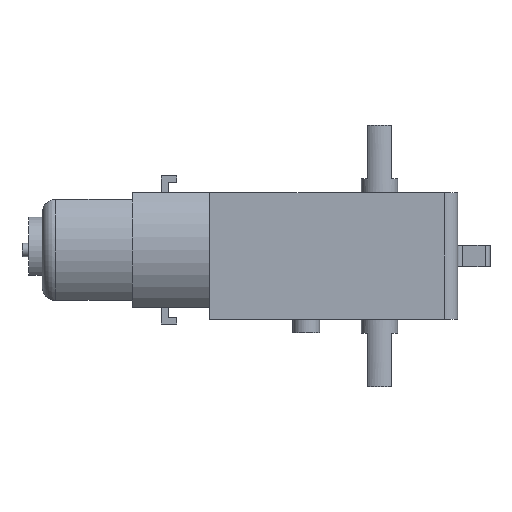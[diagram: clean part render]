
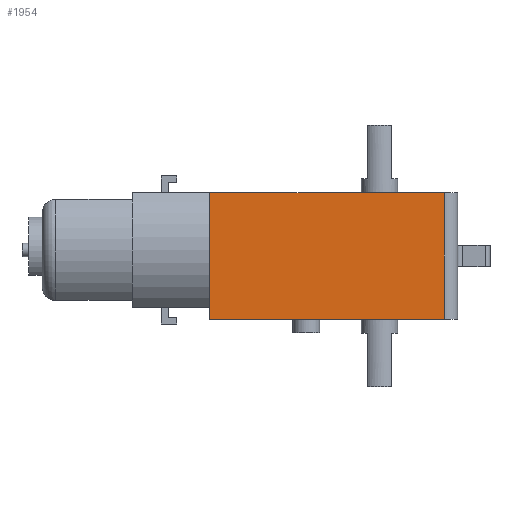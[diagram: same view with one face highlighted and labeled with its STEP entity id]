
A CAD part, front view. The second image highlights one B-rep face of the part: STEP entity #1954.
In plain terms, the highlighted planar face has unit normal (0, -1, 0).
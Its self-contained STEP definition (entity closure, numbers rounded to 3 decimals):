
#135 = CARTESIAN_POINT ( 'NONE',  ( 0., -11.15, -9.4 ) ) ;
#197 = CARTESIAN_POINT ( 'NONE',  ( 9.6, -11.15, -9.4 ) ) ;
#273 = CARTESIAN_POINT ( 'NONE',  ( -25.2, -11.15, -9.4 ) ) ;
#317 = VECTOR ( 'NONE', #946, 1000. ) ;
#336 = CARTESIAN_POINT ( 'NONE',  ( 9.6, -11.15, 9.4 ) ) ;
#364 = CARTESIAN_POINT ( 'NONE',  ( -25.2, -11.15, 0.9 ) ) ;
#365 = DIRECTION ( 'NONE',  ( 0., 0., 1. ) ) ;
#483 = LINE ( 'NONE', #943, #2121 ) ;
#531 = VECTOR ( 'NONE', #365, 1000. ) ;
#539 = CARTESIAN_POINT ( 'NONE',  ( -25.2, -11.15, -9.4 ) ) ;
#603 = DIRECTION ( 'NONE',  ( 0., 0., 1. ) ) ;
#657 = ORIENTED_EDGE ( 'NONE', *, *, #1981, .F. ) ;
#805 = AXIS2_PLACEMENT_3D ( 'NONE', #135, #1830, #853 ) ;
#853 = DIRECTION ( 'NONE',  ( 0., 0., -1. ) ) ;
#868 = VERTEX_POINT ( 'NONE', #336 ) ;
#876 = FACE_OUTER_BOUND ( 'NONE', #1928, .T. ) ;
#891 = VERTEX_POINT ( 'NONE', #197 ) ;
#943 = CARTESIAN_POINT ( 'NONE',  ( 0., -11.15, 9.4 ) ) ;
#946 = DIRECTION ( 'NONE',  ( 1., 0., 0. ) ) ;
#1019 = CARTESIAN_POINT ( 'NONE',  ( -25.2, -11.15, 9.4 ) ) ;
#1031 = DIRECTION ( 'NONE',  ( 0., 0., 1. ) ) ;
#1059 = PLANE ( 'NONE',  #805 ) ;
#1094 = ORIENTED_EDGE ( 'NONE', *, *, #2373, .F. ) ;
#1179 = LINE ( 'NONE', #1931, #317 ) ;
#1183 = EDGE_CURVE ( 'NONE', #2417, #868, #483, .T. ) ;
#1220 = EDGE_CURVE ( 'NONE', #891, #868, #2038, .T. ) ;
#1233 = VERTEX_POINT ( 'NONE', #539 ) ;
#1395 = LINE ( 'NONE', #2099, #1748 ) ;
#1487 = CARTESIAN_POINT ( 'NONE',  ( 9.6, -11.15, -9.4 ) ) ;
#1748 = VECTOR ( 'NONE', #603, 1000. ) ;
#1766 = ORIENTED_EDGE ( 'NONE', *, *, #1183, .F. ) ;
#1789 = ORIENTED_EDGE ( 'NONE', *, *, #1220, .T. ) ;
#1830 = DIRECTION ( 'NONE',  ( 0., -1., 0. ) ) ;
#1928 = EDGE_LOOP ( 'NONE', ( #1766, #1094, #657, #2192, #1789 ) ) ;
#1931 = CARTESIAN_POINT ( 'NONE',  ( 0., -11.15, -9.4 ) ) ;
#1954 = ADVANCED_FACE ( 'NONE', ( #876 ), #1059, .T. ) ;
#1971 = LINE ( 'NONE', #273, #2109 ) ;
#1981 = EDGE_CURVE ( 'NONE', #1233, #2001, #1971, .T. ) ;
#2001 = VERTEX_POINT ( 'NONE', #364 ) ;
#2038 = LINE ( 'NONE', #1487, #531 ) ;
#2099 = CARTESIAN_POINT ( 'NONE',  ( -25.2, -11.15, -9.4 ) ) ;
#2109 = VECTOR ( 'NONE', #1031, 1000. ) ;
#2121 = VECTOR ( 'NONE', #2443, 1000. ) ;
#2192 = ORIENTED_EDGE ( 'NONE', *, *, #2244, .T. ) ;
#2244 = EDGE_CURVE ( 'NONE', #1233, #891, #1179, .T. ) ;
#2373 = EDGE_CURVE ( 'NONE', #2001, #2417, #1395, .T. ) ;
#2417 = VERTEX_POINT ( 'NONE', #1019 ) ;
#2443 = DIRECTION ( 'NONE',  ( 1., 0., 0. ) ) ;
